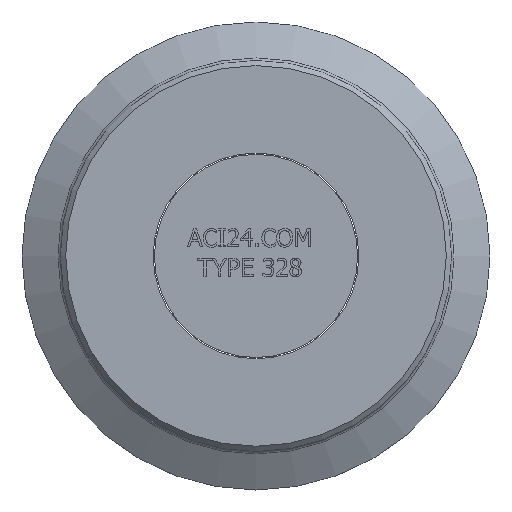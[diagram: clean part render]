
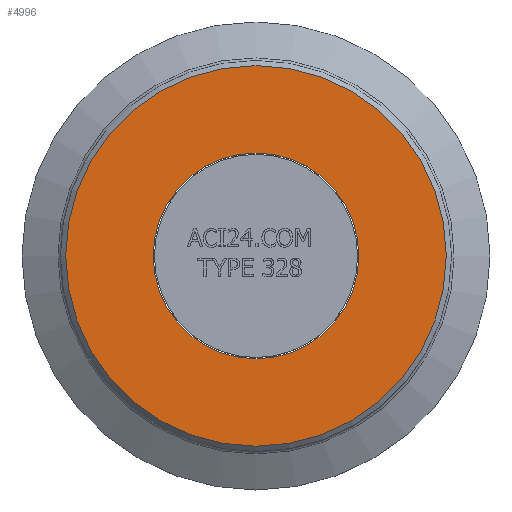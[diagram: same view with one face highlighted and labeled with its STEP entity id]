
A CAD part, top view. The second image highlights one B-rep face of the part: STEP entity #4996.
In plain terms, the highlighted planar face has unit normal (0, 0, 1).
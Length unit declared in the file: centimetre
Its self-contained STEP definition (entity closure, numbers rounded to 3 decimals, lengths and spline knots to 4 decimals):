
#27=CIRCLE('',#5157,3.7);
#29=CIRCLE('',#5161,2.);
#85=FACE_BOUND('',#992,.T.);
#697=FACE_OUTER_BOUND('',#991,.T.);
#991=EDGE_LOOP('',(#4569));
#992=EDGE_LOOP('',(#4570));
#2430=VERTEX_POINT('',#8913);
#2432=VERTEX_POINT('',#8919);
#3146=EDGE_CURVE('',#2430,#2430,#27,.T.);
#3148=EDGE_CURVE('',#2432,#2432,#29,.T.);
#4569=ORIENTED_EDGE('',*,*,#3146,.F.);
#4570=ORIENTED_EDGE('',*,*,#3148,.F.);
#4732=PLANE('',#5160);
#4996=ADVANCED_FACE('',(#697,#85),#4732,.T.);
#5157=AXIS2_PLACEMENT_3D('',#8914,#5951,#5952);
#5160=AXIS2_PLACEMENT_3D('',#8918,#5957,#5958);
#5161=AXIS2_PLACEMENT_3D('',#8920,#5959,#5960);
#5951=DIRECTION('center_axis',(0.,0.,
-1.));
#5952=DIRECTION('ref_axis',(0.,-1.,0.));
#5957=DIRECTION('center_axis',(0.,0.,
1.));
#5958=DIRECTION('ref_axis',(0.,1.,0.));
#5959=DIRECTION('center_axis',(0.,0.,
1.));
#5960=DIRECTION('ref_axis',(-1.,0.,0.));
#8913=CARTESIAN_POINT('',(0.,3.7,0.5));
#8914=CARTESIAN_POINT('Origin',(0.,0.,
0.5));
#8918=CARTESIAN_POINT('Origin',(0.,2.,0.5));
#8919=CARTESIAN_POINT('',(0.,2.,0.5));
#8920=CARTESIAN_POINT('Origin',(0.,0.,
0.5));
